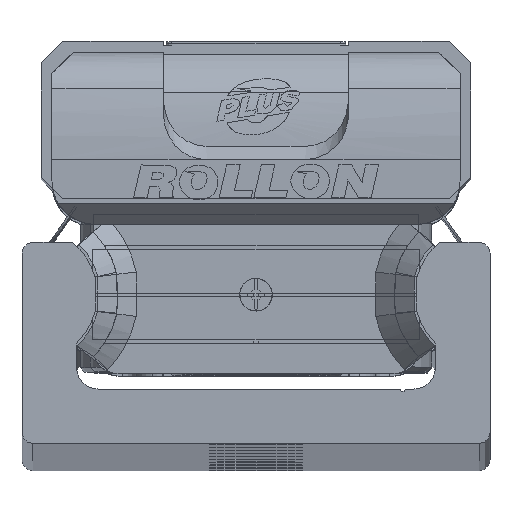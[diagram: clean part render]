
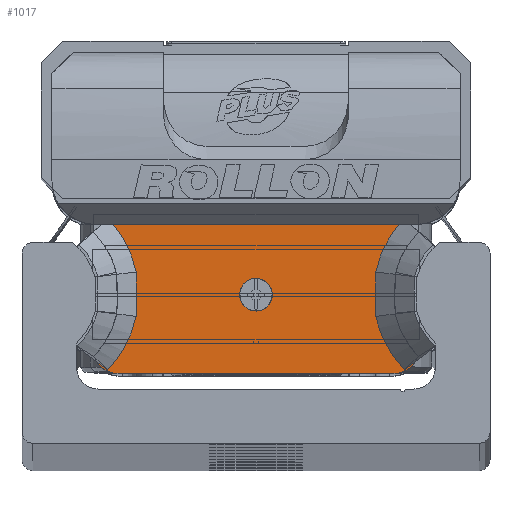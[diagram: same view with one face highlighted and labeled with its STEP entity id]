
A CAD part, top view. The second image highlights one B-rep face of the part: STEP entity #1017.
In plain terms, the highlighted planar face has unit normal (0, 0, 1) as drawn and (0, 0, -1) by its records, which use the part's own axes.
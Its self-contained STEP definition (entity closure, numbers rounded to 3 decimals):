
#1017 = ADVANCED_FACE( '', ( #2553, #2554 ), #2555, .F. );
#2553 = FACE_BOUND( '', #4834, .T. );
#2554 = FACE_OUTER_BOUND( '', #4835, .T. );
#2555 = PLANE( '', #4836 );
#4834 = EDGE_LOOP( '', ( #7890 ) );
#4835 = EDGE_LOOP( '', ( #7891, #7892, #7893, #7894, #7895, #7896, #7897, #7898, #7899, #7900, #7901, #7902 ) );
#4836 = AXIS2_PLACEMENT_3D( '', #7903, #7904, #7905 );
#7890 = ORIENTED_EDGE( '', *, *, #12942, .T. );
#7891 = ORIENTED_EDGE( '', *, *, #13009, .T. );
#7892 = ORIENTED_EDGE( '', *, *, #13347, .F. );
#7893 = ORIENTED_EDGE( '', *, *, #13289, .T. );
#7894 = ORIENTED_EDGE( '', *, *, #13012, .F. );
#7895 = ORIENTED_EDGE( '', *, *, #13348, .T. );
#7896 = ORIENTED_EDGE( '', *, *, #13349, .T. );
#7897 = ORIENTED_EDGE( '', *, *, #13350, .T. );
#7898 = ORIENTED_EDGE( '', *, *, #13351, .T. );
#7899 = ORIENTED_EDGE( '', *, *, #13352, .T. );
#7900 = ORIENTED_EDGE( '', *, *, #13353, .T. );
#7901 = ORIENTED_EDGE( '', *, *, #13354, .T. );
#7902 = ORIENTED_EDGE( '', *, *, #12789, .T. );
#7903 = CARTESIAN_POINT( '', ( 14.9, 7.35, -13.25 ) );
#7904 = DIRECTION( '', ( 0., 0., 1. ) );
#7905 = DIRECTION( '', ( 1., 0., 0. ) );
#12789 = EDGE_CURVE( '', #15118, #15116, #15119, .T. );
#12942 = EDGE_CURVE( '', #15409, #15409, #15410, .T. );
#13009 = EDGE_CURVE( '', #15116, #15527, #15529, .T. );
#13012 = EDGE_CURVE( '', #15532, #15533, #15534, .T. );
#13289 = EDGE_CURVE( '', #15998, #15533, #15999, .T. );
#13347 = EDGE_CURVE( '', #15998, #15527, #16097, .T. );
#13348 = EDGE_CURVE( '', #15532, #16098, #16099, .T. );
#13349 = EDGE_CURVE( '', #16098, #16100, #16101, .T. );
#13350 = EDGE_CURVE( '', #16100, #16102, #16103, .T. );
#13351 = EDGE_CURVE( '', #16102, #16104, #16105, .T. );
#13352 = EDGE_CURVE( '', #16104, #16106, #16107, .T. );
#13353 = EDGE_CURVE( '', #16106, #16108, #16109, .T. );
#13354 = EDGE_CURVE( '', #16108, #15118, #16110, .T. );
#15116 = VERTEX_POINT( '', #18516 );
#15118 = VERTEX_POINT( '', #18519 );
#15119 = B_SPLINE_CURVE_WITH_KNOTS( '', 2, ( #18520, #18521, #18522, #18523, #18524 ), .UNSPECIFIED., .F., .F., ( 3, 2, 3 ), ( 0., 0.5, 1. ), .UNSPECIFIED. );
#15409 = VERTEX_POINT( '', #19058 );
#15410 = CIRCLE( '', #19059, 1.5 );
#15527 = VERTEX_POINT( '', #19211 );
#15529 = B_SPLINE_CURVE_WITH_KNOTS( '', 1, ( #19214, #19215 ), .UNSPECIFIED., .F., .F., ( 2, 2 ), ( 0., 1. ), .UNSPECIFIED. );
#15532 = VERTEX_POINT( '', #19221 );
#15533 = VERTEX_POINT( '', #19222 );
#15534 = CIRCLE( '', #19223, 2.5 );
#15998 = VERTEX_POINT( '', #19825 );
#15999 = LINE( '', #19826, #19827 );
#16097 = CIRCLE( '', #19963, 2.5 );
#16098 = VERTEX_POINT( '', #19964 );
#16099 = B_SPLINE_CURVE_WITH_KNOTS( '', 1, ( #19965, #19966 ), .UNSPECIFIED., .F., .F., ( 2, 2 ), ( 0., 1. ), .UNSPECIFIED. );
#16100 = VERTEX_POINT( '', #19967 );
#16101 = B_SPLINE_CURVE_WITH_KNOTS( '', 2, ( #19968, #19969, #19970, #19971, #19972 ), .UNSPECIFIED., .F., .F., ( 3, 2, 3 ), ( 0., 0.5, 1. ), .UNSPECIFIED. );
#16102 = VERTEX_POINT( '', #19973 );
#16103 = B_SPLINE_CURVE_WITH_KNOTS( '', 2, ( #19974, #19975, #19976 ), .UNSPECIFIED., .F., .F., ( 3, 3 ), ( 0., 1. ), .UNSPECIFIED. );
#16104 = VERTEX_POINT( '', #19977 );
#16105 = B_SPLINE_CURVE_WITH_KNOTS( '', 2, ( #19978, #19979, #19980, #19981, #19982 ), .UNSPECIFIED., .F., .F., ( 3, 2, 3 ), ( 0., 0.5, 0.868 ), .UNSPECIFIED. );
#16106 = VERTEX_POINT( '', #19983 );
#16107 = LINE( '', #19984, #19985 );
#16108 = VERTEX_POINT( '', #19986 );
#16109 = B_SPLINE_CURVE_WITH_KNOTS( '', 2, ( #19987, #19988, #19989, #19990, #19991 ), .UNSPECIFIED., .F., .F., ( 3, 2, 3 ), ( 0.133, 0.5, 1. ), .UNSPECIFIED. );
#16110 = B_SPLINE_CURVE_WITH_KNOTS( '', 2, ( #19992, #19993, #19994 ), .UNSPECIFIED., .F., .F., ( 3, 3 ), ( 0., 1. ), .UNSPECIFIED. );
#18516 = CARTESIAN_POINT( '', ( 13.628, -6.965, -13.25 ) );
#18519 = CARTESIAN_POINT( '', ( 11.012, -2.045, -13.25 ) );
#18520 = CARTESIAN_POINT( '', ( 11.012, -2.045, -13.25 ) );
#18521 = CARTESIAN_POINT( '', ( 11.301, -3.43, -13.25 ) );
#18522 = CARTESIAN_POINT( '', ( 11.972, -4.69, -13.25 ) );
#18523 = CARTESIAN_POINT( '', ( 12.642, -5.95, -13.25 ) );
#18524 = CARTESIAN_POINT( '', ( 13.628, -6.965, -13.25 ) );
#19058 = CARTESIAN_POINT( '', ( 1.5, -0.05, -13.25 ) );
#19059 = AXIS2_PLACEMENT_3D( '', #23472, #23473, #23474 );
#19211 = CARTESIAN_POINT( '', ( 14.906, -5.717, -13.25 ) );
#19214 = CARTESIAN_POINT( '', ( 13.628, -6.965, -13.25 ) );
#19215 = CARTESIAN_POINT( '', ( 14.9, -5.728, -13.25 ) );
#19221 = CARTESIAN_POINT( '', ( -14.904, -5.718, -13.25 ) );
#19222 = CARTESIAN_POINT( '', ( -12.58, -7.3, -13.25 ) );
#19223 = AXIS2_PLACEMENT_3D( '', #23573, #23574, #23575 );
#19825 = CARTESIAN_POINT( '', ( 12.58, -7.3, -13.25 ) );
#19826 = CARTESIAN_POINT( '', ( 12.58, -7.3, -13.25 ) );
#19827 = VECTOR( '', #23967, 1000. );
#19963 = AXIS2_PLACEMENT_3D( '', #24083, #24084, #24085 );
#19964 = CARTESIAN_POINT( '', ( -13.628, -6.965, -13.25 ) );
#19965 = CARTESIAN_POINT( '', ( -14.915, -5.713, -13.25 ) );
#19966 = CARTESIAN_POINT( '', ( -13.628, -6.965, -13.25 ) );
#19967 = CARTESIAN_POINT( '', ( -11.012, -2.045, -13.25 ) );
#19968 = CARTESIAN_POINT( '', ( -13.628, -6.965, -13.25 ) );
#19969 = CARTESIAN_POINT( '', ( -12.638, -5.946, -13.25 ) );
#19970 = CARTESIAN_POINT( '', ( -11.97, -4.691, -13.25 ) );
#19971 = CARTESIAN_POINT( '', ( -11.303, -3.437, -13.25 ) );
#19972 = CARTESIAN_POINT( '', ( -11.012, -2.045, -13.25 ) );
#19973 = CARTESIAN_POINT( '', ( -11.012, 2.045, -13.25 ) );
#19974 = CARTESIAN_POINT( '', ( -11.012, -2.045, -13.25 ) );
#19975 = CARTESIAN_POINT( '', ( -10.888, 0., -13.25 ) );
#19976 = CARTESIAN_POINT( '', ( -11.012, 2.045, -13.25 ) );
#19977 = CARTESIAN_POINT( '', ( -13.119, 6.4, -13.25 ) );
#19978 = CARTESIAN_POINT( '', ( -11.012, 2.045, -13.25 ) );
#19979 = CARTESIAN_POINT( '', ( -11.302, 3.432, -13.25 ) );
#19980 = CARTESIAN_POINT( '', ( -11.967, 4.685, -13.25 ) );
#19981 = CARTESIAN_POINT( '', ( -12.456, 5.606, -13.25 ) );
#19982 = CARTESIAN_POINT( '', ( -13.119, 6.4, -13.25 ) );
#19983 = CARTESIAN_POINT( '', ( 13.12, 6.4, -13.25 ) );
#19984 = CARTESIAN_POINT( '', ( 14.9, 6.4, -13.25 ) );
#19985 = VECTOR( '', #24086, 1000. );
#19986 = CARTESIAN_POINT( '', ( 11.012, 2.045, -13.25 ) );
#19987 = CARTESIAN_POINT( '', ( 13.119, 6.4, -13.25 ) );
#19988 = CARTESIAN_POINT( '', ( 12.459, 5.608, -13.25 ) );
#19989 = CARTESIAN_POINT( '', ( 11.968, 4.684, -13.25 ) );
#19990 = CARTESIAN_POINT( '', ( 11.301, 3.427, -13.25 ) );
#19991 = CARTESIAN_POINT( '', ( 11.012, 2.045, -13.25 ) );
#19992 = CARTESIAN_POINT( '', ( 11.012, 2.045, -13.25 ) );
#19993 = CARTESIAN_POINT( '', ( 10.888, 0., -13.25 ) );
#19994 = CARTESIAN_POINT( '', ( 11.012, -2.045, -13.25 ) );
#23472 = CARTESIAN_POINT( '', ( 0., -0.05, -13.25 ) );
#23473 = DIRECTION( '', ( 0., 0., 1. ) );
#23474 = DIRECTION( '', ( 1., 0., 0. ) );
#23573 = CARTESIAN_POINT( '', ( -12.58, -4.8, -13.25 ) );
#23574 = DIRECTION( '', ( 0., 0., 1. ) );
#23575 = DIRECTION( '', ( 1., 0., 0. ) );
#23967 = DIRECTION( '', ( -1., 0., 0. ) );
#24083 = CARTESIAN_POINT( '', ( 12.58, -4.8, -13.25 ) );
#24084 = DIRECTION( '', ( 0., 0., 1. ) );
#24085 = DIRECTION( '', ( 1., 0., 0. ) );
#24086 = DIRECTION( '', ( 1., 0., 0. ) );
